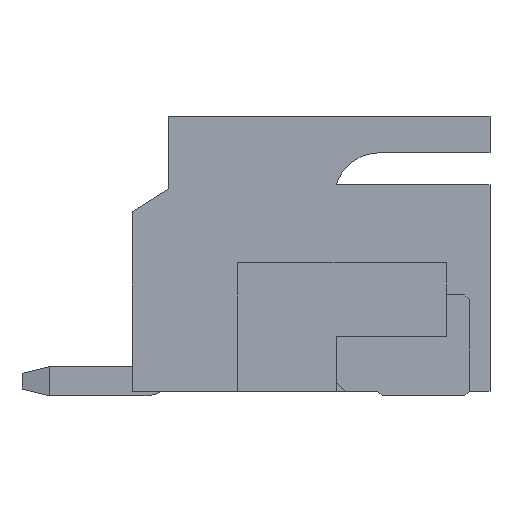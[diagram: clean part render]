
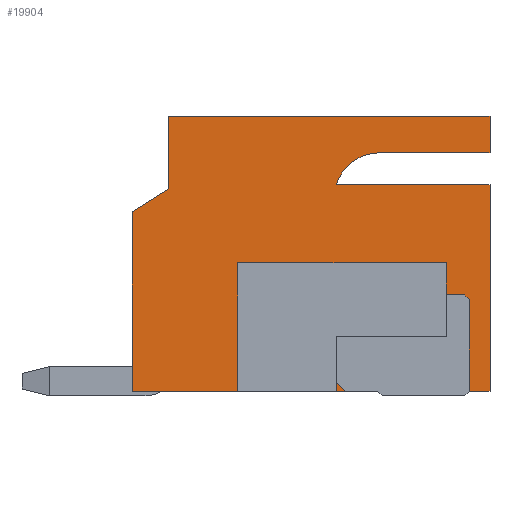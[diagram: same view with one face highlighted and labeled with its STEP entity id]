
A CAD part, left-side view. The second image highlights one B-rep face of the part: STEP entity #19904.
In plain terms, the highlighted planar face has unit normal (-1, 0, 0).
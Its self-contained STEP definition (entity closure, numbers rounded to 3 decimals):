
#227 = ORIENTED_EDGE ( 'NONE', *, *, #4380, .T. ) ;
#508 = EDGE_CURVE ( 'NONE', #18820, #6941, #10517, .T. ) ;
#671 = CARTESIAN_POINT ( 'NONE',  ( -8.75, 0., -1.5 ) ) ;
#723 = ORIENTED_EDGE ( 'NONE', *, *, #16609, .T. ) ;
#1108 = CARTESIAN_POINT ( 'NONE',  ( -8.75, 0., 0. ) ) ;
#1201 = CARTESIAN_POINT ( 'NONE',  ( -8.75, 0., -1.5 ) ) ;
#1226 = EDGE_CURVE ( 'NONE', #17063, #11854, #9014, .T. ) ;
#1296 = EDGE_CURVE ( 'NONE', #6941, #14313, #9423, .T. ) ;
#1300 = LINE ( 'NONE', #7577, #3434 ) ;
#1405 = ORIENTED_EDGE ( 'NONE', *, *, #7524, .F. ) ;
#1506 = AXIS2_PLACEMENT_3D ( 'NONE', #12603, #7781, #17630 ) ;
#1600 = DIRECTION ( 'NONE',  ( 0., 0., -1. ) ) ;
#1736 = DIRECTION ( 'NONE',  ( 0., 1., 0. ) ) ;
#1889 = CARTESIAN_POINT ( 'NONE',  ( -8.75, 3.35, -4.8 ) ) ;
#2245 = ORIENTED_EDGE ( 'NONE', *, *, #14966, .F. ) ;
#2313 = LINE ( 'NONE', #14955, #6962 ) ;
#2382 = VECTOR ( 'NONE', #13409, 1000. ) ;
#2523 = CARTESIAN_POINT ( 'NONE',  ( -8.75, 0., -0.8 ) ) ;
#2565 = CARTESIAN_POINT ( 'NONE',  ( -8.75, 7., 0. ) ) ;
#2589 = VECTOR ( 'NONE', #10233, 1000. ) ;
#2756 = VERTEX_POINT ( 'NONE', #19263 ) ;
#3010 = ORIENTED_EDGE ( 'NONE', *, *, #6999, .T. ) ;
#3240 = ORIENTED_EDGE ( 'NONE', *, *, #1296, .F. ) ;
#3285 = LINE ( 'NONE', #9555, #11928 ) ;
#3434 = VECTOR ( 'NONE', #3895, 1000. ) ;
#3487 = CARTESIAN_POINT ( 'NONE',  ( -8.75, 3.35, -4.8 ) ) ;
#3523 = ORIENTED_EDGE ( 'NONE', *, *, #508, .F. ) ;
#3637 = LINE ( 'NONE', #1889, #12277 ) ;
#3841 = DIRECTION ( 'NONE',  ( 0., 0., -1. ) ) ;
#3892 = ORIENTED_EDGE ( 'NONE', *, *, #5037, .T. ) ;
#3895 = DIRECTION ( 'NONE',  ( 0., 0., 1. ) ) ;
#4000 = LINE ( 'NONE', #2565, #8959 ) ;
#4008 = CARTESIAN_POINT ( 'NONE',  ( -8.75, 2.4, -0.8 ) ) ;
#4380 = EDGE_CURVE ( 'NONE', #18820, #2756, #4000, .T. ) ;
#4522 = CARTESIAN_POINT ( 'NONE',  ( -8.75, 5.5, -6. ) ) ;
#4693 = FACE_OUTER_BOUND ( 'NONE', #20046, .T. ) ;
#5037 = EDGE_CURVE ( 'NONE', #14355, #12116, #19688, .T. ) ;
#5051 = EDGE_CURVE ( 'NONE', #17576, #15383, #2313, .T. ) ;
#5244 = CARTESIAN_POINT ( 'NONE',  ( -8.75, 7.8, -6. ) ) ;
#5441 = CARTESIAN_POINT ( 'NONE',  ( -8.75, 5.5, -6. ) ) ;
#5495 = DIRECTION ( 'NONE',  ( 0., 0., 1. ) ) ;
#5973 = DIRECTION ( 'NONE',  ( 1., 0., 0. ) ) ;
#6281 = CARTESIAN_POINT ( 'NONE',  ( -8.75, 2.4, -1.8 ) ) ;
#6315 = EDGE_CURVE ( 'NONE', #9386, #13902, #15584, .T. ) ;
#6597 = VERTEX_POINT ( 'NONE', #4008 ) ;
#6764 = VECTOR ( 'NONE', #1600, 1000. ) ;
#6941 = VERTEX_POINT ( 'NONE', #1108 ) ;
#6962 = VECTOR ( 'NONE', #5495, 1000. ) ;
#6999 = EDGE_CURVE ( 'NONE', #15383, #17064, #16644, .T. ) ;
#7389 = DIRECTION ( 'NONE',  ( 0., -1., 0. ) ) ;
#7524 = EDGE_CURVE ( 'NONE', #14313, #6597, #19067, .T. ) ;
#7577 = CARTESIAN_POINT ( 'NONE',  ( -8.75, 0.95, -4.8 ) ) ;
#7781 = DIRECTION ( 'NONE',  ( 1., 0., 0. ) ) ;
#7868 = CARTESIAN_POINT ( 'NONE',  ( -8.75, 7.8, -6. ) ) ;
#7984 = VECTOR ( 'NONE', #15154, 1000. ) ;
#8745 = ORIENTED_EDGE ( 'NONE', *, *, #14222, .T. ) ;
#8959 = VECTOR ( 'NONE', #17985, 1000. ) ;
#9014 = LINE ( 'NONE', #1201, #16615 ) ;
#9065 = EDGE_CURVE ( 'NONE', #9600, #6597, #15813, .T. ) ;
#9160 = DIRECTION ( 'NONE',  ( 0., 0.954, 0.3 ) ) ;
#9386 = VERTEX_POINT ( 'NONE', #5244 ) ;
#9423 = LINE ( 'NONE', #18977, #6764 ) ;
#9555 = CARTESIAN_POINT ( 'NONE',  ( -8.75, 0., -1.5 ) ) ;
#9600 = VERTEX_POINT ( 'NONE', #18610 ) ;
#9619 = PLANE ( 'NONE',  #1506 ) ;
#9948 = ORIENTED_EDGE ( 'NONE', *, *, #9065, .T. ) ;
#10137 = CARTESIAN_POINT ( 'NONE',  ( -8.75, 0.95, -3.2 ) ) ;
#10233 = DIRECTION ( 'NONE',  ( 0., 0.848, -0.53 ) ) ;
#10250 = ORIENTED_EDGE ( 'NONE', *, *, #1226, .F. ) ;
#10463 = CARTESIAN_POINT ( 'NONE',  ( -8.75, 5.5, -3.2 ) ) ;
#10517 = LINE ( 'NONE', #13610, #7984 ) ;
#10551 = CARTESIAN_POINT ( 'NONE',  ( -8.75, 7., 0. ) ) ;
#10804 = VECTOR ( 'NONE', #10894, 1000. ) ;
#10894 = DIRECTION ( 'NONE',  ( 0., 1., 0. ) ) ;
#10944 = DIRECTION ( 'NONE',  ( 0., 0., 1. ) ) ;
#11426 = EDGE_CURVE ( 'NONE', #12116, #16870, #3637, .T. ) ;
#11618 = LINE ( 'NONE', #14697, #11785 ) ;
#11785 = VECTOR ( 'NONE', #17487, 1000. ) ;
#11854 = VERTEX_POINT ( 'NONE', #14809 ) ;
#11907 = CARTESIAN_POINT ( 'NONE',  ( -8.75, 3.35, -6. ) ) ;
#11928 = VECTOR ( 'NONE', #1736, 1000. ) ;
#12116 = VERTEX_POINT ( 'NONE', #3487 ) ;
#12275 = VECTOR ( 'NONE', #7389, 1000. ) ;
#12277 = VECTOR ( 'NONE', #3841, 1000. ) ;
#12340 = LINE ( 'NONE', #4522, #10804 ) ;
#12391 = CARTESIAN_POINT ( 'NONE',  ( -8.75, 0.95, -4.8 ) ) ;
#12603 = CARTESIAN_POINT ( 'NONE',  ( -8.75, 0., 0. ) ) ;
#12788 = DIRECTION ( 'NONE',  ( 0., 1., 0. ) ) ;
#12853 = CARTESIAN_POINT ( 'NONE',  ( -8.75, 7.8, -2.086 ) ) ;
#13317 = LINE ( 'NONE', #14858, #2589 ) ;
#13409 = DIRECTION ( 'NONE',  ( 0., 1., 0. ) ) ;
#13610 = CARTESIAN_POINT ( 'NONE',  ( -8.75, 7., 0. ) ) ;
#13735 = DIRECTION ( 'NONE',  ( 0., 0., -1. ) ) ;
#13902 = VERTEX_POINT ( 'NONE', #12853 ) ;
#13923 = ORIENTED_EDGE ( 'NONE', *, *, #18765, .F. ) ;
#14222 = EDGE_CURVE ( 'NONE', #2756, #13902, #13317, .T. ) ;
#14313 = VERTEX_POINT ( 'NONE', #2523 ) ;
#14355 = VERTEX_POINT ( 'NONE', #12391 ) ;
#14581 = VECTOR ( 'NONE', #10944, 1000. ) ;
#14697 = CARTESIAN_POINT ( 'NONE',  ( -8.75, 0., -6. ) ) ;
#14777 = CARTESIAN_POINT ( 'NONE',  ( -8.75, 5.5, -3.2 ) ) ;
#14809 = CARTESIAN_POINT ( 'NONE',  ( -8.75, 0., -6. ) ) ;
#14858 = CARTESIAN_POINT ( 'NONE',  ( -8.75, 7., -1.586 ) ) ;
#14955 = CARTESIAN_POINT ( 'NONE',  ( -8.75, 5.5, -6. ) ) ;
#14966 = EDGE_CURVE ( 'NONE', #11854, #16870, #11618, .T. ) ;
#15154 = DIRECTION ( 'NONE',  ( 0., -1., 0. ) ) ;
#15220 = EDGE_CURVE ( 'NONE', #17576, #9386, #12340, .T. ) ;
#15383 = VERTEX_POINT ( 'NONE', #14777 ) ;
#15579 = ORIENTED_EDGE ( 'NONE', *, *, #5051, .T. ) ;
#15584 = LINE ( 'NONE', #7868, #14581 ) ;
#15813 = CIRCLE ( 'NONE', #18429, 1. ) ;
#15909 = ORIENTED_EDGE ( 'NONE', *, *, #15220, .F. ) ;
#15998 = ORIENTED_EDGE ( 'NONE', *, *, #11426, .T. ) ;
#16284 = CARTESIAN_POINT ( 'NONE',  ( -8.75, 0., -0.8 ) ) ;
#16436 = VECTOR ( 'NONE', #12788, 1000. ) ;
#16609 = EDGE_CURVE ( 'NONE', #17063, #9600, #3285, .T. ) ;
#16615 = VECTOR ( 'NONE', #13735, 1000. ) ;
#16644 = LINE ( 'NONE', #10463, #12275 ) ;
#16737 = ORIENTED_EDGE ( 'NONE', *, *, #6315, .F. ) ;
#16870 = VERTEX_POINT ( 'NONE', #11907 ) ;
#17063 = VERTEX_POINT ( 'NONE', #671 ) ;
#17064 = VERTEX_POINT ( 'NONE', #10137 ) ;
#17487 = DIRECTION ( 'NONE',  ( 0., 1., 0. ) ) ;
#17576 = VERTEX_POINT ( 'NONE', #5441 ) ;
#17630 = DIRECTION ( 'NONE',  ( 0., 1., 0. ) ) ;
#17834 = CARTESIAN_POINT ( 'NONE',  ( -8.75, 0.95, -4.8 ) ) ;
#17985 = DIRECTION ( 'NONE',  ( 0., 0., -1. ) ) ;
#18429 = AXIS2_PLACEMENT_3D ( 'NONE', #6281, #5973, #9160 ) ;
#18610 = CARTESIAN_POINT ( 'NONE',  ( -8.75, 3.354, -1.5 ) ) ;
#18765 = EDGE_CURVE ( 'NONE', #14355, #17064, #1300, .T. ) ;
#18820 = VERTEX_POINT ( 'NONE', #10551 ) ;
#18977 = CARTESIAN_POINT ( 'NONE',  ( -8.75, 0., 0. ) ) ;
#19067 = LINE ( 'NONE', #16284, #16436 ) ;
#19263 = CARTESIAN_POINT ( 'NONE',  ( -8.75, 7., -1.586 ) ) ;
#19688 = LINE ( 'NONE', #17834, #2382 ) ;
#19904 = ADVANCED_FACE ( 'NONE', ( #4693 ), #9619, .F. ) ;
#20046 = EDGE_LOOP ( 'NONE', ( #10250, #723, #9948, #1405, #3240, #3523, #227, #8745, #16737, #15909, #15579, #3010, #13923, #3892, #15998, #2245 ) ) ;
